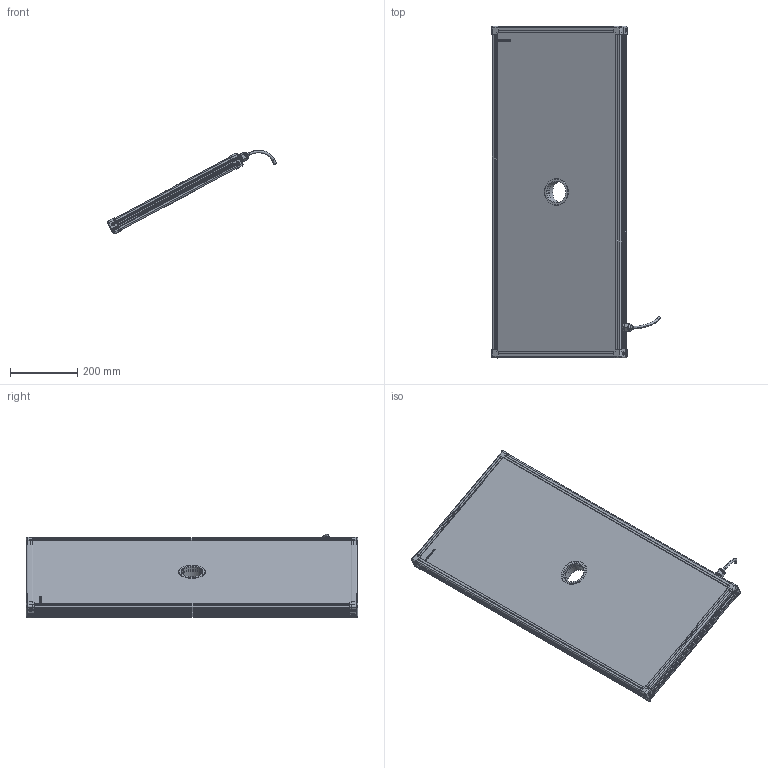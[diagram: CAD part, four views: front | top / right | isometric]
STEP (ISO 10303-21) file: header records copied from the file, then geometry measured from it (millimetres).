
FILE_DESCRIPTION (( 'STEP AP214' ), '1' );
FILE_NAME ('EFFI-FD-400-950-ZZZ-1M12P.STEP', '2021-06-24T07:54:29', ( '' ), ( '' ), 'SwSTEP 2.0', 'SolidWorks 2021', '' );
FILE_SCHEMA (( 'AUTOMOTIVE_DESIGN' ));
Length unit declared in the file: millimetre
Products named in the file (13): Pièce13^EFFI-FD-XXX-YYY-ZZZ (1 connecteur) M12POWER Ø65; profile X_PERCE; 000629; profile Y_PERCE; 004409; petite joue; petite joue + vis; M12 power_AVEC CABLE D8.1; 000590; 004408; Assemblage Ø65; EFFI-FD-400-950-ZZZ-1M12P
Assembly tree (19 placements, depth 3):
  EFFI-FD-400-950-ZZZ-1M12P
    profile X_PERCE  x2
    profile Y_PERCE
    profile Y_PERCE
    Pièce13^EFFI-FD-XXX-YYY-ZZZ (1 connecteur) M12POWER Ø65
    petite joue + vis  x4
      petite joue
      000629
    M12 power_AVEC CABLE D8.1
    Assemblage Ø65
      004408
      004409
      000590  x3
Bounding box: 503.1 x 989 x 249.72 mm (x, y, z)
Volume: 14941464.5 mm3; surface area: 1318535.8 mm2
Topology: 22 solids, 25 shells, 3951 faces, 10520 edges, 6907 vertices
Faces by surface type: plane 2447, cylinder 720, bspline 591, cone 156, torus 29, sphere 8
Entity records: 56000 total; most frequent: CARTESIAN_POINT 22561, ORIENTED_EDGE 7014, DIRECTION 5746, EDGE_CURVE 3509, LINE 2458, VECTOR 2458, VERTEX_POINT 2308, AXIS2_PLACEMENT_3D 1644
